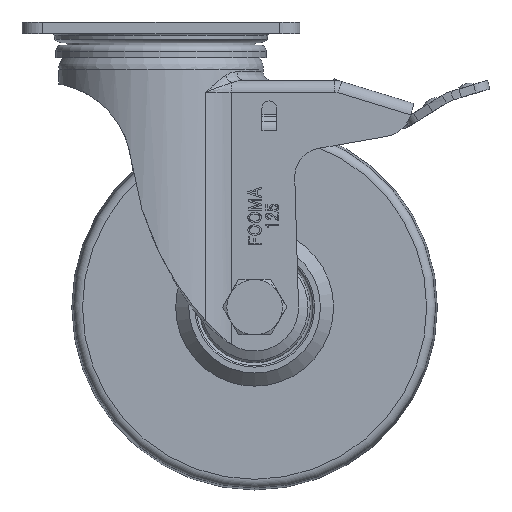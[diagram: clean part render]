
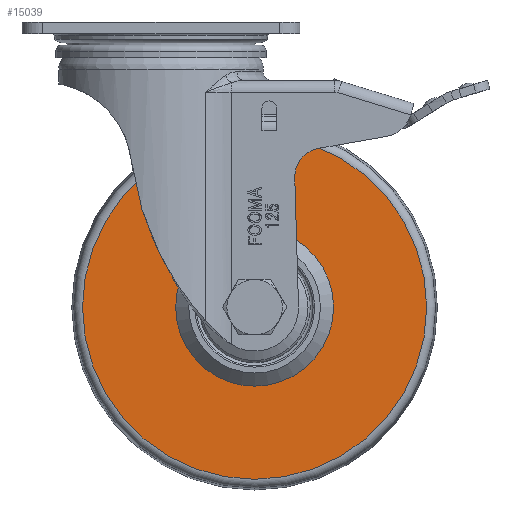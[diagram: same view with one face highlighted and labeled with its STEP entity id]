
A CAD part, left-side view. The second image highlights one B-rep face of the part: STEP entity #15039.
In plain terms, the highlighted planar face has unit normal (-1, 0, 0).
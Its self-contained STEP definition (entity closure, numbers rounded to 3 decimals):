
#4083=PLANE('',#15931);
#4552=FACE_BOUND('',#5576,.T.);
#4705=FACE_OUTER_BOUND('',#5575,.T.);
#5575=EDGE_LOOP('',(#10669));
#5576=EDGE_LOOP('',(#10670));
#6574=CIRCLE('',#15914,27.);
#6583=CIRCLE('',#15930,58.832);
#7030=VERTEX_POINT('',#20809);
#7039=VERTEX_POINT('',#20834);
#8480=EDGE_CURVE('',#7030,#7030,#6574,.T.);
#8489=EDGE_CURVE('',#7039,#7039,#6583,.T.);
#10669=ORIENTED_EDGE('',*,*,#8489,.T.);
#10670=ORIENTED_EDGE('',*,*,#8480,.F.);
#15039=ADVANCED_FACE('',(#4705,#4552),#4083,.T.);
#15914=AXIS2_PLACEMENT_3D('',#20810,#17171,#17172);
#15930=AXIS2_PLACEMENT_3D('',#20835,#17203,#17204);
#15931=AXIS2_PLACEMENT_3D('',#20836,#17205,#17206);
#17171=DIRECTION('center_axis',(-1.,0.,0.));
#17172=DIRECTION('ref_axis',(0.,0.,1.));
#17203=DIRECTION('center_axis',(-1.,0.,0.));
#17204=DIRECTION('ref_axis',(0.,0.,1.));
#17205=DIRECTION('center_axis',(-1.,0.,0.));
#17206=DIRECTION('ref_axis',(0.,0.,1.));
#20809=CARTESIAN_POINT('',(-17.5,-32.,-70.5));
#20810=CARTESIAN_POINT('Origin',(-17.5,-32.,-97.5));
#20834=CARTESIAN_POINT('',(-17.5,-32.,-38.668));
#20835=CARTESIAN_POINT('Origin',(-17.5,-32.,-97.5));
#20836=CARTESIAN_POINT('Origin',(-17.5,-32.,-70.5));
